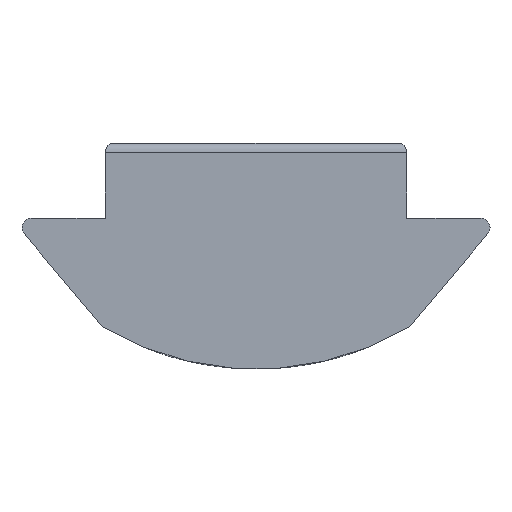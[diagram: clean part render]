
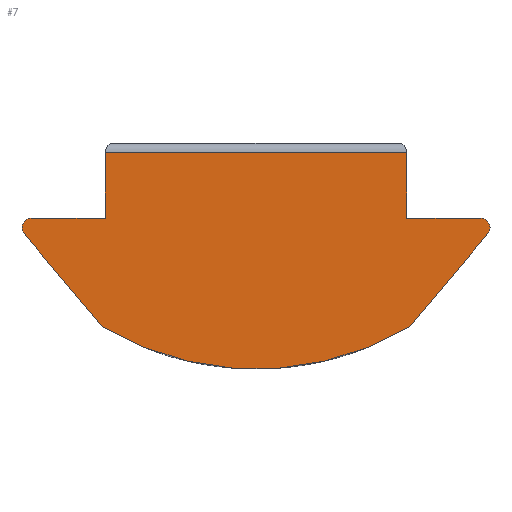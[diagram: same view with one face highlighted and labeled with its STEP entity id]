
A CAD part, front view. The second image highlights one B-rep face of the part: STEP entity #7.
In plain terms, the highlighted planar face has unit normal (0, -1, 0).
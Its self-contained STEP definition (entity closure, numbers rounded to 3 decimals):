
#7 = ADVANCED_FACE ( 'NONE', ( #369 ), #191, .F. ) ;
#22 = EDGE_CURVE ( 'NONE', #419, #418, #341, .T. ) ;
#23 = EDGE_CURVE ( 'NONE', #385, #394, #344, .T. ) ;
#38 = AXIS2_PLACEMENT_3D ( 'NONE', #199, #187, #182 ) ;
#50 = EDGE_CURVE ( 'NONE', #392, #389, #328, .T. ) ;
#53 = EDGE_CURVE ( 'NONE', #385, #392, #321, .T. ) ;
#57 = EDGE_CURVE ( 'NONE', #386, #394, #313, .T. ) ;
#59 = EDGE_CURVE ( 'NONE', #431, #386, #309, .T. ) ;
#66 = EDGE_CURVE ( 'NONE', #430, #426, #296, .T. ) ;
#72 = EDGE_CURVE ( 'NONE', #419, #430, #284, .T. ) ;
#73 = EDGE_CURVE ( 'NONE', #389, #418, #282, .T. ) ;
#76 = EDGE_CURVE ( 'NONE', #431, #426, #277, .T. ) ;
#78 = DIRECTION ( 'NONE',  ( 1., 0., 0. ) ) ;
#83 = CARTESIAN_POINT ( 'NONE',  ( 6.5, -10., -4. ) ) ;
#97 = DIRECTION ( 'NONE',  ( -0.643, 0., -0.766 ) ) ;
#99 = CARTESIAN_POINT ( 'NONE',  ( 4.084, -10., -6.879 ) ) ;
#102 = DIRECTION ( 'NONE',  ( 0., 0., 1. ) ) ;
#104 = DIRECTION ( 'NONE',  ( 0., 1., 0. ) ) ;
#105 = CARTESIAN_POINT ( 'NONE',  ( 0., -10., 0. ) ) ;
#182 = DIRECTION ( 'NONE',  ( 0., 0., 1. ) ) ;
#187 = DIRECTION ( 'NONE',  ( 0., 1., 0. ) ) ;
#191 = PLANE ( 'NONE',  #38 ) ;
#199 = CARTESIAN_POINT ( 'NONE',  ( 0., -10., 0. ) ) ;
#230 = CARTESIAN_POINT ( 'NONE',  ( 4., -10., -4. ) ) ;
#231 = DIRECTION ( 'NONE',  ( 0., 0., -1. ) ) ;
#256 = DIRECTION ( 'NONE',  ( 0., 0., 1. ) ) ;
#257 = DIRECTION ( 'NONE',  ( 0., -1., 0. ) ) ;
#258 = CARTESIAN_POINT ( 'NONE',  ( 5.964, -10., -4.25 ) ) ;
#259 = DIRECTION ( 'NONE',  ( 0., 0., 1. ) ) ;
#260 = DIRECTION ( 'NONE',  ( 0., -1., 0. ) ) ;
#261 = CARTESIAN_POINT ( 'NONE',  ( -5.964, -10., -4.25 ) ) ;
#275 = VECTOR ( 'NONE', #585, 1000. ) ;
#277 = LINE ( 'NONE', #587, #275 ) ;
#280 = VECTOR ( 'NONE', #591, 1000. ) ;
#281 = VECTOR ( 'NONE', #594, 1000. ) ;
#282 = LINE ( 'NONE', #593, #280 ) ;
#284 = LINE ( 'NONE', #595, #281 ) ;
#293 = VECTOR ( 'NONE', #606, 1000. ) ;
#296 = LINE ( 'NONE', #608, #293 ) ;
#306 = VECTOR ( 'NONE', #231, 1000. ) ;
#309 = LINE ( 'NONE', #230, #306 ) ;
#310 = VECTOR ( 'NONE', #78, 1000. ) ;
#313 = LINE ( 'NONE', #83, #310 ) ;
#318 = VECTOR ( 'NONE', #97, 1000. ) ;
#321 = LINE ( 'NONE', #99, #318 ) ;
#328 = CIRCLE ( 'NONE', #475, 8. ) ;
#341 = CIRCLE ( 'NONE', #464, 0.25 ) ;
#344 = CIRCLE ( 'NONE', #470, 0.25 ) ;
#369 = FACE_OUTER_BOUND ( 'NONE', #403, .T. ) ;
#385 = VERTEX_POINT ( 'NONE', #601 ) ;
#386 = VERTEX_POINT ( 'NONE', #582 ) ;
#389 = VERTEX_POINT ( 'NONE', #586 ) ;
#392 = VERTEX_POINT ( 'NONE', #583 ) ;
#394 = VERTEX_POINT ( 'NONE', #577 ) ;
#403 = EDGE_LOOP ( 'NONE', ( #459, #460, #616, #618, #619, #620, #622, #624, #625, #626 ) ) ;
#418 = VERTEX_POINT ( 'NONE', #573 ) ;
#419 = VERTEX_POINT ( 'NONE', #572 ) ;
#426 = VERTEX_POINT ( 'NONE', #564 ) ;
#430 = VERTEX_POINT ( 'NONE', #560 ) ;
#431 = VERTEX_POINT ( 'NONE', #559 ) ;
#459 = ORIENTED_EDGE ( 'NONE', *, *, #59, .F. ) ;
#460 = ORIENTED_EDGE ( 'NONE', *, *, #76, .T. ) ;
#464 = AXIS2_PLACEMENT_3D ( 'NONE', #261, #260, #259 ) ;
#470 = AXIS2_PLACEMENT_3D ( 'NONE', #258, #257, #256 ) ;
#475 = AXIS2_PLACEMENT_3D ( 'NONE', #105, #104, #102 ) ;
#559 = CARTESIAN_POINT ( 'NONE',  ( 4., -10., -2.25 ) ) ;
#560 = CARTESIAN_POINT ( 'NONE',  ( -4., -10., -4. ) ) ;
#564 = CARTESIAN_POINT ( 'NONE',  ( -4., -10., -2.25 ) ) ;
#572 = CARTESIAN_POINT ( 'NONE',  ( -5.964, -10., -4. ) ) ;
#573 = CARTESIAN_POINT ( 'NONE',  ( -6.155, -10., -4.411 ) ) ;
#577 = CARTESIAN_POINT ( 'NONE',  ( 5.964, -10., -4. ) ) ;
#582 = CARTESIAN_POINT ( 'NONE',  ( 4., -10., -4. ) ) ;
#583 = CARTESIAN_POINT ( 'NONE',  ( 4.084, -10., -6.879 ) ) ;
#585 = DIRECTION ( 'NONE',  ( -1., 0., 0. ) ) ;
#586 = CARTESIAN_POINT ( 'NONE',  ( -4.084, -10., -6.879 ) ) ;
#587 = CARTESIAN_POINT ( 'NONE',  ( -4., -10., -2.25 ) ) ;
#591 = DIRECTION ( 'NONE',  ( -0.643, 0., 0.766 ) ) ;
#593 = CARTESIAN_POINT ( 'NONE',  ( -6.5, -10., -4. ) ) ;
#594 = DIRECTION ( 'NONE',  ( 1., 0., 0. ) ) ;
#595 = CARTESIAN_POINT ( 'NONE',  ( -4., -10., -4. ) ) ;
#601 = CARTESIAN_POINT ( 'NONE',  ( 6.155, -10., -4.411 ) ) ;
#606 = DIRECTION ( 'NONE',  ( 0., 0., 1. ) ) ;
#608 = CARTESIAN_POINT ( 'NONE',  ( -4., -10., -2. ) ) ;
#616 = ORIENTED_EDGE ( 'NONE', *, *, #66, .F. ) ;
#618 = ORIENTED_EDGE ( 'NONE', *, *, #72, .F. ) ;
#619 = ORIENTED_EDGE ( 'NONE', *, *, #22, .T. ) ;
#620 = ORIENTED_EDGE ( 'NONE', *, *, #73, .F. ) ;
#622 = ORIENTED_EDGE ( 'NONE', *, *, #50, .F. ) ;
#624 = ORIENTED_EDGE ( 'NONE', *, *, #53, .F. ) ;
#625 = ORIENTED_EDGE ( 'NONE', *, *, #23, .T. ) ;
#626 = ORIENTED_EDGE ( 'NONE', *, *, #57, .F. ) ;
